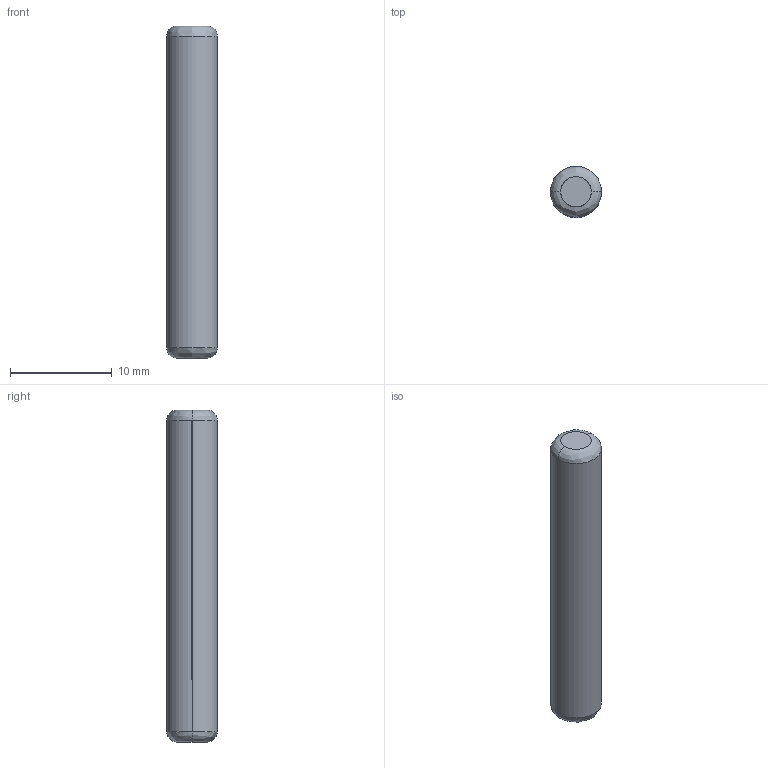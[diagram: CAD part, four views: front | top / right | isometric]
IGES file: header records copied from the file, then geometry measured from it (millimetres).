
Start section: SolidWorks IGES FILE using analytic representation for surfaces
Global section: file name: C:\Documents and Settings\lecoutey\Bureau\GP 30\30.100.10.IGS; native system: SolidWorks 2004 by SolidWorks Corporation; preprocessor: Version 5.3; author: lecoutey; date: 050329.142926; units: millimetre
Bounding box: 5 x 5 x 32.6 mm (x, y, z)
Surface area: 537 mm2 (no closed solid volume)
Topology: 0 solids, 0 shells, 8 faces, 88 edges, 88 vertices
Faces by surface type: bspline 6, revolution 2
